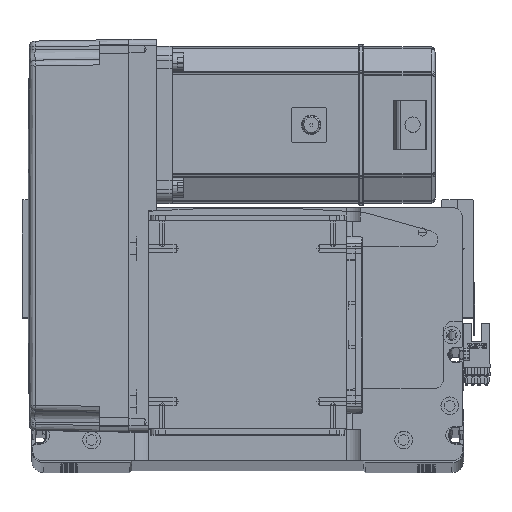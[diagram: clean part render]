
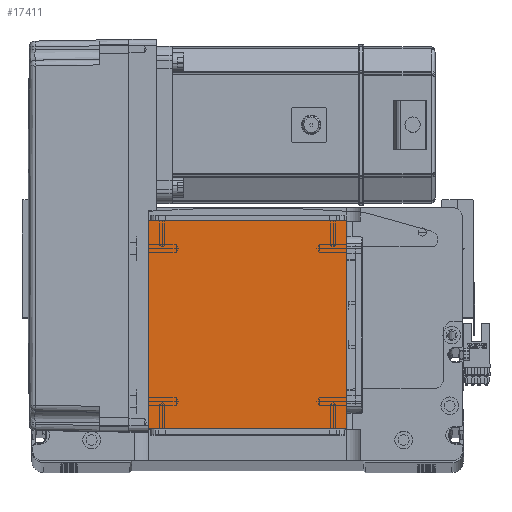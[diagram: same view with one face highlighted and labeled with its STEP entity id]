
A CAD part, top view. The second image highlights one B-rep face of the part: STEP entity #17411.
In plain terms, the highlighted planar face has unit normal (0, 0, 1).
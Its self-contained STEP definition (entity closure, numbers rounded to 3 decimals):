
#2644 = CARTESIAN_POINT ( 'NONE',  ( 50.5, 122., 115. ) ) ;
#3440 = VECTOR ( 'NONE', #19109, 1000. ) ;
#3673 = CARTESIAN_POINT ( 'NONE',  ( 50.5, 16., 115. ) ) ;
#4070 = EDGE_CURVE ( 'NONE', #21274, #40591, #41412, .T. ) ;
#8769 = DIRECTION ( 'NONE',  ( -1., 0., 0. ) ) ;
#10165 = CARTESIAN_POINT ( 'NONE',  ( -50.5, 16., 115. ) ) ;
#15267 = LINE ( 'NONE', #45116, #49617 ) ;
#16136 = FACE_OUTER_BOUND ( 'NONE', #36269, .T. ) ;
#16256 = LINE ( 'NONE', #47084, #19050 ) ;
#16921 = DIRECTION ( 'NONE',  ( 0., 0., 1. ) ) ;
#17411 = ADVANCED_FACE ( 'NONE', ( #16136 ), #21231, .T. ) ;
#19050 = VECTOR ( 'NONE', #24774, 1000. ) ;
#19109 = DIRECTION ( 'NONE',  ( 1., 0., 0. ) ) ;
#20327 = DIRECTION ( 'NONE',  ( 0., 1., 0. ) ) ;
#21231 = PLANE ( 'NONE',  #53161 ) ;
#21274 = VERTEX_POINT ( 'NONE', #43393 ) ;
#24774 = DIRECTION ( 'NONE',  ( 0., -1., 0. ) ) ;
#28891 = VECTOR ( 'NONE', #20327, 1000. ) ;
#31061 = LINE ( 'NONE', #2644, #28891 ) ;
#36269 = EDGE_LOOP ( 'NONE', ( #39869, #40392, #36687, #52945 ) ) ;
#36687 = ORIENTED_EDGE ( 'NONE', *, *, #56574, .T. ) ;
#38091 = CARTESIAN_POINT ( 'NONE',  ( 50.5, 122., 115. ) ) ;
#39869 = ORIENTED_EDGE ( 'NONE', *, *, #40440, .T. ) ;
#40392 = ORIENTED_EDGE ( 'NONE', *, *, #4070, .T. ) ;
#40440 = EDGE_CURVE ( 'NONE', #51691, #21274, #16256, .T. ) ;
#40591 = VERTEX_POINT ( 'NONE', #3673 ) ;
#41240 = CARTESIAN_POINT ( 'NONE',  ( -50.5, 122., 115. ) ) ;
#41412 = LINE ( 'NONE', #10165, #3440 ) ;
#42027 = VERTEX_POINT ( 'NONE', #38091 ) ;
#43393 = CARTESIAN_POINT ( 'NONE',  ( -50.5, 16., 115. ) ) ;
#45116 = CARTESIAN_POINT ( 'NONE',  ( -50.5, 122., 115. ) ) ;
#47084 = CARTESIAN_POINT ( 'NONE',  ( -50.5, 122., 115. ) ) ;
#49617 = VECTOR ( 'NONE', #8769, 1000. ) ;
#51691 = VERTEX_POINT ( 'NONE', #41240 ) ;
#52764 = DIRECTION ( 'NONE',  ( 1., 0., 0. ) ) ;
#52945 = ORIENTED_EDGE ( 'NONE', *, *, #54316, .T. ) ;
#53161 = AXIS2_PLACEMENT_3D ( 'NONE', #57094, #16921, #52764 ) ;
#54316 = EDGE_CURVE ( 'NONE', #42027, #51691, #15267, .T. ) ;
#56574 = EDGE_CURVE ( 'NONE', #40591, #42027, #31061, .T. ) ;
#57094 = CARTESIAN_POINT ( 'NONE',  ( 0., 0., 115. ) ) ;
